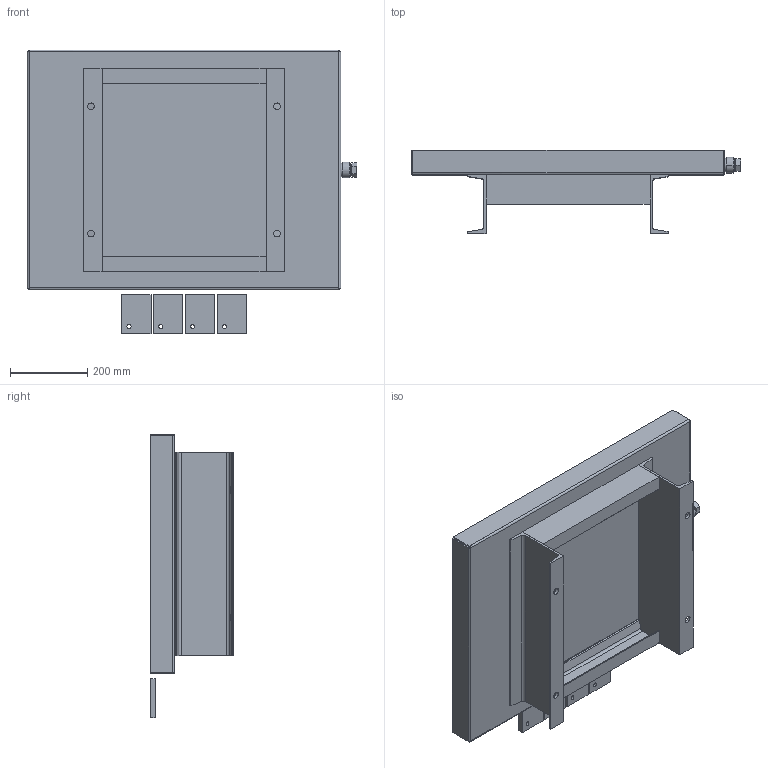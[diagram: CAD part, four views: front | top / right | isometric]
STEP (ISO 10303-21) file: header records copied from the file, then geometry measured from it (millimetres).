
FILE_DESCRIPTION (( 'STEP AP214' ), '1' );
FILE_NAME ('TDP-15.STEP', '2019-06-14T14:46:06', ( '' ), ( '' ), 'SwSTEP 2.0', 'SolidWorks 2013', '' );
FILE_SCHEMA (( 'AUTOMOTIVE_DESIGN' ));
Length unit declared in the file: inch
Products named in the file (7): TDP-15; C6-TDP-15_Default<As Welded>; C3-TDP-15_Default<As Welded>; #12 SAE DRAIN; #12 SAE PLUG; TDP-PAD
Assembly tree (11 placements, depth 2):
  TDP-15
    TDP-15
    C6-TDP-15_Default<As Welded>  x2
    C3-TDP-15_Default<As Welded>  x2
    #12 SAE DRAIN
    #12 SAE PLUG
    TDP-PAD  x4
Bounding box: 854.08 x 215.9 x 736.6 mm (x, y, z)
Volume: 5283317.5 mm3; surface area: 2186833.3 mm2
Topology: 11 solids, 11 shells, 163 faces, 378 edges, 240 vertices
Faces by surface type: plane 99, cylinder 50, bspline 8, cone 6
Entity records: 3882 total; most frequent: CARTESIAN_POINT 1105, DIRECTION 498, ORIENTED_EDGE 480, EDGE_CURVE 240, LINE 168, VECTOR 168, AXIS2_PLACEMENT_3D 165, VERTEX_POINT 148
